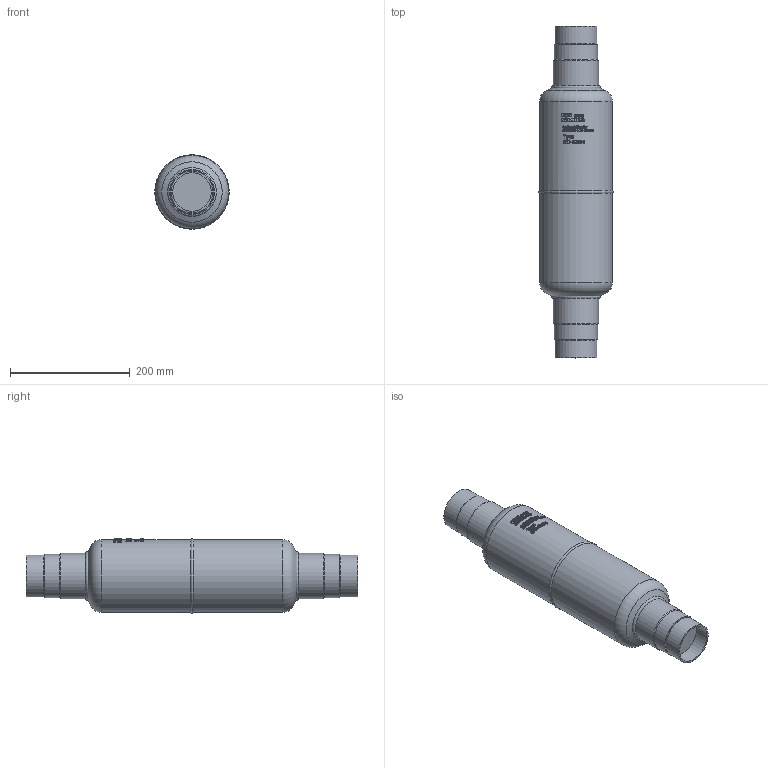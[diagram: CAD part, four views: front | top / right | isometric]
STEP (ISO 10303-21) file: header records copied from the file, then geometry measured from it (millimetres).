
FILE_DESCRIPTION(/* description */ (''),/* implementation_level */ '2;1');
FILE_NAME(/* name */ 'P:\GD\GD-67_64\GD-67_64.stp',/* time_stamp */ '2017-10-05T08:28:37+02:00',/* author */ ('neufeld'),/* organization */ (''),/* preprocessor_version */ 'ST-DEVELOPER v16.1',/* originating_system */ 'Autodesk Inventor 2016',/* authorisation */ '');
FILE_SCHEMA (('AUTOMOTIVE_DESIGN { 1 0 10303 214 3 1 1 }'));
Length unit declared in the file: millimetre
Products named in the file (2): GD-67_64; GD-67_64_1
Assembly tree (1 placements, depth 2):
  GD-67_64_1
    GD-67_64
Bounding box: 124.69 x 555.42 x 124.69 mm (x, y, z)
Volume: 4697652.5 mm3; surface area: 207556.8 mm2
Topology: 1 solids, 1 shells, 1052 faces, 2864 edges, 1906 vertices
Faces by surface type: plane 570, bspline 375, cylinder 96, torus 5, cone 4, sphere 2
Full cylindrical faces by diameter (mm): 64.3 x2, 70 x2, 72.5 x2, 75.4 x2, 122 x2
Entity records: 41040 total; most frequent: CARTESIAN_POINT 16338, ORIENTED_EDGE 5686, DIRECTION 4183, EDGE_CURVE 2843, VERTEX_POINT 1904, AXIS2_PLACEMENT_3D 1410, LINE 1363, VECTOR 1363
